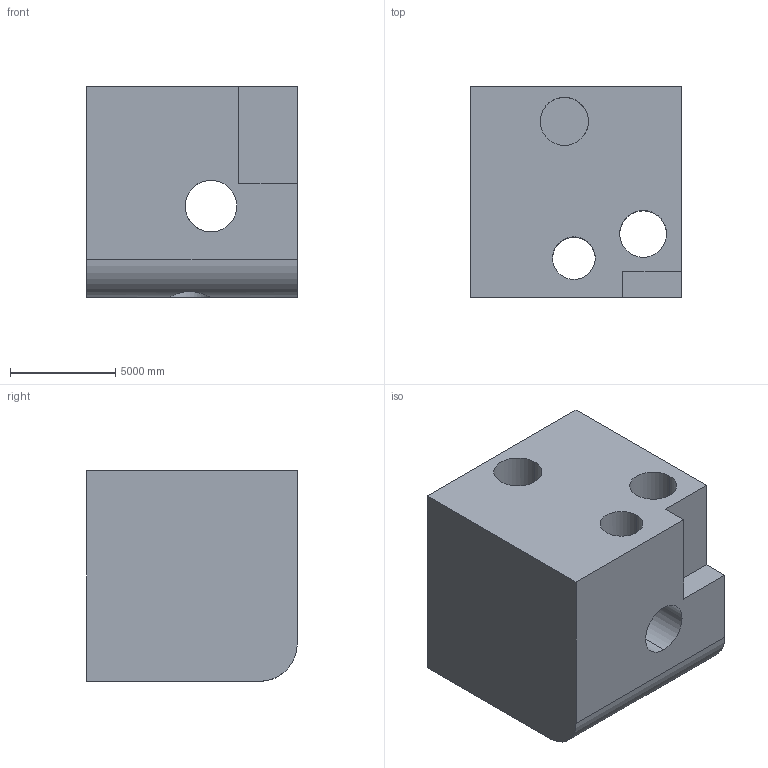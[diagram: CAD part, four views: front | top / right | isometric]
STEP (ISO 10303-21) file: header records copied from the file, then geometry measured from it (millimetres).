
FILE_DESCRIPTION (( 'STEP AP203' ), '1' );
FILE_NAME ('1663.STEP', '2022-08-19T11:29:23', ( 'user' ), ( '' ), 'SwSTEP 2.0', 'SolidWorks 2021', '' );
FILE_SCHEMA (( 'CONFIG_CONTROL_DESIGN' ));
Length unit declared in the file: centimetre
Products named in the file (1): 1663
Bounding box: 10000 x 10000 x 10000 mm (x, y, z)
Volume: 808124257731.4 mm3; surface area: 843340061.7 mm2
Topology: 1 solids, 1 shells, 30 faces, 102 edges, 68 vertices
Faces by surface type: plane 20, cylinder 10
Entity records: 2356 total; most frequent: CARTESIAN_POINT 1355, ORIENTED_EDGE 204, DIRECTION 182, EDGE_CURVE 102, VERTEX_POINT 68, LINE 62, VECTOR 62, AXIS2_PLACEMENT_3D 60
